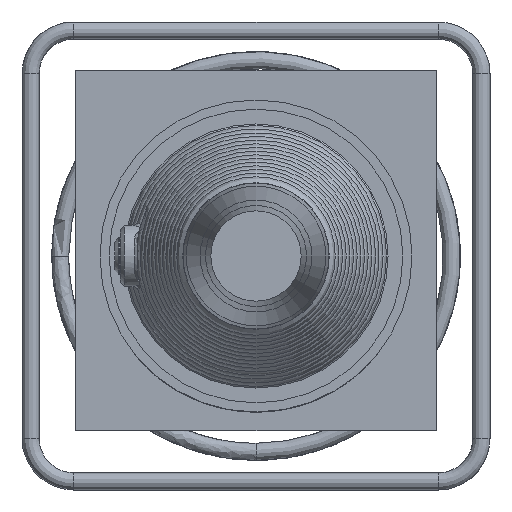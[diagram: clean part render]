
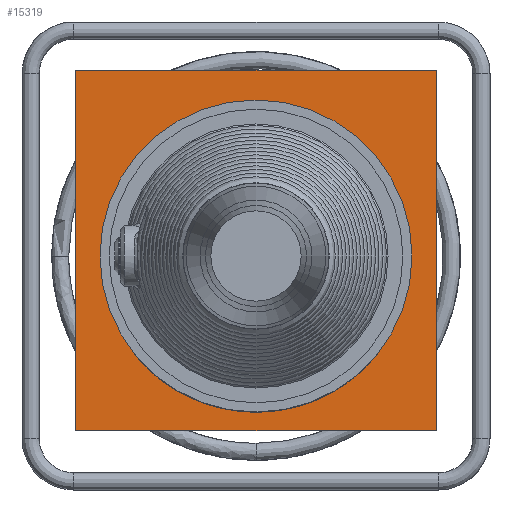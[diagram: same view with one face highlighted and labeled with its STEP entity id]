
A CAD part, left-side view. The second image highlights one B-rep face of the part: STEP entity #15319.
In plain terms, the highlighted planar face has unit normal (-1, 0, 0).
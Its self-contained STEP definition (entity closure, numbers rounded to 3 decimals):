
#2041=LINE('',#37302,#2920);
#2045=LINE('',#37309,#2924);
#2048=LINE('',#37314,#2927);
#2051=LINE('',#37318,#2930);
#2920=VECTOR('',#19170,335.);
#2924=VECTOR('',#19176,335.);
#2927=VECTOR('',#19181,335.);
#2930=VECTOR('',#19186,335.);
#3228=PLANE('',#16323);
#3608=FACE_BOUND('',#5582,.T.);
#4508=FACE_OUTER_BOUND('',#5581,.T.);
#5581=EDGE_LOOP('',(#13994,#13995,#13996,#13997));
#5582=EDGE_LOOP('',(#13998));
#5959=CIRCLE('',#16091,145.);
#7417=VERTEX_POINT('',#32262);
#7552=VERTEX_POINT('',#37300);
#7553=VERTEX_POINT('',#37301);
#7555=VERTEX_POINT('',#37308);
#7556=VERTEX_POINT('',#37313);
#9540=EDGE_CURVE('',#7417,#7417,#5959,.T.);
#9709=EDGE_CURVE('',#7552,#7553,#2041,.T.);
#9713=EDGE_CURVE('',#7553,#7555,#2045,.T.);
#9716=EDGE_CURVE('',#7555,#7556,#2048,.T.);
#9719=EDGE_CURVE('',#7556,#7552,#2051,.T.);
#13994=ORIENTED_EDGE('',*,*,#9719,.T.);
#13995=ORIENTED_EDGE('',*,*,#9709,.T.);
#13996=ORIENTED_EDGE('',*,*,#9713,.T.);
#13997=ORIENTED_EDGE('',*,*,#9716,.T.);
#13998=ORIENTED_EDGE('',*,*,#9540,.T.);
#15319=ADVANCED_FACE('',(#4508,#3608),#3228,.T.);
#16091=AXIS2_PLACEMENT_3D('',#32263,#18706,#18707);
#16323=AXIS2_PLACEMENT_3D('',#37320,#19188,#19189);
#18706=DIRECTION('center_axis',(1.,0.,0.));
#18707=DIRECTION('ref_axis',(0.,-1.,0.));
#19170=DIRECTION('',(0.,0.,-1.));
#19176=DIRECTION('',(0.,-1.,0.));
#19181=DIRECTION('',(0.,0.,1.));
#19186=DIRECTION('',(0.,1.,0.));
#19188=DIRECTION('center_axis',(-1.,0.,0.));
#19189=DIRECTION('ref_axis',(0.,0.,-1.));
#32262=CARTESIAN_POINT('',(-112.151,-145.,-0.005));
#32263=CARTESIAN_POINT('Origin',(-112.151,0.,
0.));
#37300=CARTESIAN_POINT('',(-112.151,167.5,172.753));
#37301=CARTESIAN_POINT('',(-112.151,167.5,-162.247));
#37302=CARTESIAN_POINT('',(-112.151,167.5,172.753));
#37308=CARTESIAN_POINT('',(-112.151,-167.5,-162.247));
#37309=CARTESIAN_POINT('',(-112.151,167.5,-162.247));
#37313=CARTESIAN_POINT('',(-112.151,-167.5,172.753));
#37314=CARTESIAN_POINT('',(-112.151,-167.5,-162.247));
#37318=CARTESIAN_POINT('',(-112.151,-167.5,172.753));
#37320=CARTESIAN_POINT('Origin',(-112.151,0.,
5.253));
